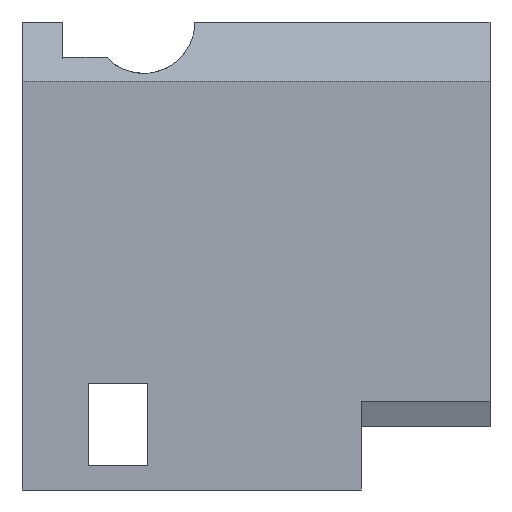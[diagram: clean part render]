
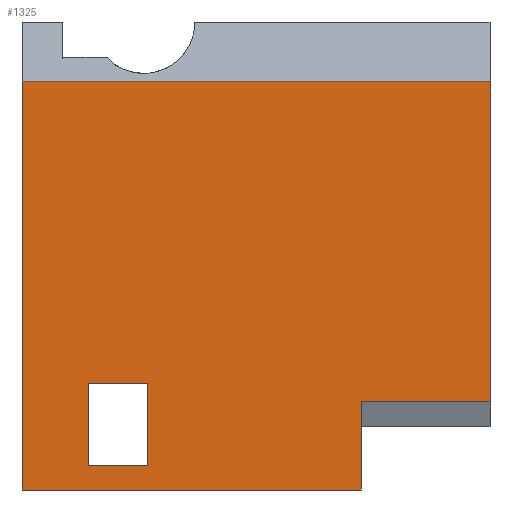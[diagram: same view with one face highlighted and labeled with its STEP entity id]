
A CAD part, front view. The second image highlights one B-rep face of the part: STEP entity #1325.
In plain terms, the highlighted planar face has unit normal (0, -1, 0).
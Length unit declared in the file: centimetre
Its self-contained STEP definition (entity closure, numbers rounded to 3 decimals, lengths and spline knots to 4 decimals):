
#2 = CARTESIAN_POINT ( 'NONE',  ( 141.1228, 0., 228.2216 ) ) ;
#21 = FACE_OUTER_BOUND ( 'NONE', #200, .T. ) ;
#23 = VECTOR ( 'NONE', #152, 100. ) ;
#36 = CARTESIAN_POINT ( 'NONE',  ( 141.1228, 0., 228.2216 ) ) ;
#53 = ORIENTED_EDGE ( 'NONE', *, *, #1179, .T. ) ;
#58 = LINE ( 'NONE', #1294, #607 ) ;
#89 = DIRECTION ( 'NONE',  ( 0., 0., 1. ) ) ;
#91 = VECTOR ( 'NONE', #1113, 100. ) ;
#104 = CARTESIAN_POINT ( 'NONE',  ( 724.5698, 0., 189.2938 ) ) ;
#117 = VECTOR ( 'NONE', #775, 100. ) ;
#126 = CARTESIAN_POINT ( 'NONE',  ( 1000., 0., 1000. ) ) ;
#152 = DIRECTION ( 'NONE',  ( 0., 0., -1. ) ) ;
#153 = VERTEX_POINT ( 'NONE', #1306 ) ;
#200 = EDGE_LOOP ( 'NONE', ( #805, #1352, #688, #1157, #402, #1291 ) ) ;
#257 = VERTEX_POINT ( 'NONE', #864 ) ;
#271 = VERTEX_POINT ( 'NONE', #104 ) ;
#278 = EDGE_CURVE ( 'NONE', #625, #948, #870, .T. ) ;
#283 = VERTEX_POINT ( 'NONE', #1405 ) ;
#289 = EDGE_CURVE ( 'NONE', #283, #153, #554, .T. ) ;
#303 = CARTESIAN_POINT ( 'NONE',  ( 1000., 0., 189.2938 ) ) ;
#378 = LINE ( 'NONE', #491, #1359 ) ;
#402 = ORIENTED_EDGE ( 'NONE', *, *, #498, .T. ) ;
#409 = VERTEX_POINT ( 'NONE', #481 ) ;
#436 = CARTESIAN_POINT ( 'NONE',  ( 0., 0., 873.509 ) ) ;
#446 = DIRECTION ( 'NONE',  ( 1., 0., 0. ) ) ;
#451 = DIRECTION ( 'NONE',  ( 1., 0., 0. ) ) ;
#459 = LINE ( 'NONE', #1097, #117 ) ;
#471 = CARTESIAN_POINT ( 'NONE',  ( 0., 0., 1000. ) ) ;
#481 = CARTESIAN_POINT ( 'NONE',  ( 268.4384, 0., 52.4948 ) ) ;
#487 = CARTESIAN_POINT ( 'NONE',  ( 0., 0., 1000. ) ) ;
#491 = CARTESIAN_POINT ( 'NONE',  ( 0., 0., 873.509 ) ) ;
#498 = EDGE_CURVE ( 'NONE', #1173, #283, #1259, .T. ) ;
#510 = VERTEX_POINT ( 'NONE', #710 ) ;
#511 = CARTESIAN_POINT ( 'NONE',  ( 141.1228, 0., 52.4948 ) ) ;
#552 = LINE ( 'NONE', #1423, #761 ) ;
#554 = LINE ( 'NONE', #777, #1298 ) ;
#560 = CARTESIAN_POINT ( 'NONE',  ( 268.4384, 0., 52.4948 ) ) ;
#598 = FACE_BOUND ( 'NONE', #1406, .T. ) ;
#607 = VECTOR ( 'NONE', #959, 100. ) ;
#625 = VERTEX_POINT ( 'NONE', #511 ) ;
#667 = VERTEX_POINT ( 'NONE', #303 ) ;
#688 = ORIENTED_EDGE ( 'NONE', *, *, #764, .F. ) ;
#710 = CARTESIAN_POINT ( 'NONE',  ( 268.4384, 0., 228.2216 ) ) ;
#759 = VECTOR ( 'NONE', #451, 100. ) ;
#761 = VECTOR ( 'NONE', #1103, 100. ) ;
#764 = EDGE_CURVE ( 'NONE', #257, #667, #1432, .T. ) ;
#775 = DIRECTION ( 'NONE',  ( -1., 0., 0. ) ) ;
#777 = CARTESIAN_POINT ( 'NONE',  ( 0., 0., 0. ) ) ;
#783 = EDGE_CURVE ( 'NONE', #510, #409, #1314, .T. ) ;
#792 = EDGE_CURVE ( 'NONE', #409, #625, #459, .T. ) ;
#797 = VECTOR ( 'NONE', #1010, 100. ) ;
#805 = ORIENTED_EDGE ( 'NONE', *, *, #1043, .F. ) ;
#810 = ORIENTED_EDGE ( 'NONE', *, *, #792, .T. ) ;
#864 = CARTESIAN_POINT ( 'NONE',  ( 1000., 0., 873.509 ) ) ;
#870 = LINE ( 'NONE', #1082, #1184 ) ;
#873 = LINE ( 'NONE', #2, #759 ) ;
#929 = DIRECTION ( 'NONE',  ( -1., 0., 0. ) ) ;
#948 = VERTEX_POINT ( 'NONE', #36 ) ;
#959 = DIRECTION ( 'NONE',  ( 0., 0., -1. ) ) ;
#1010 = DIRECTION ( 'NONE',  ( 0., 0., -1. ) ) ;
#1043 = EDGE_CURVE ( 'NONE', #271, #153, #58, .T. ) ;
#1082 = CARTESIAN_POINT ( 'NONE',  ( 141.1228, 0., 52.4948 ) ) ;
#1097 = CARTESIAN_POINT ( 'NONE',  ( 141.1228, 0., 52.4948 ) ) ;
#1103 = DIRECTION ( 'NONE',  ( 1., 0., 0. ) ) ;
#1113 = DIRECTION ( 'NONE',  ( 0., 0., -1. ) ) ;
#1125 = DIRECTION ( 'NONE',  ( 0., 1., 0. ) ) ;
#1149 = ORIENTED_EDGE ( 'NONE', *, *, #278, .T. ) ;
#1157 = ORIENTED_EDGE ( 'NONE', *, *, #1383, .T. ) ;
#1173 = VERTEX_POINT ( 'NONE', #436 ) ;
#1179 = EDGE_CURVE ( 'NONE', #948, #510, #873, .T. ) ;
#1184 = VECTOR ( 'NONE', #89, 100. ) ;
#1225 = AXIS2_PLACEMENT_3D ( 'NONE', #471, #1125, #1244 ) ;
#1244 = DIRECTION ( 'NONE',  ( 0., 0., 1. ) ) ;
#1257 = EDGE_CURVE ( 'NONE', #271, #667, #552, .T. ) ;
#1259 = LINE ( 'NONE', #487, #23 ) ;
#1291 = ORIENTED_EDGE ( 'NONE', *, *, #289, .T. ) ;
#1294 = CARTESIAN_POINT ( 'NONE',  ( 724.5698, 0., 189.2938 ) ) ;
#1298 = VECTOR ( 'NONE', #446, 100. ) ;
#1306 = CARTESIAN_POINT ( 'NONE',  ( 724.5698, 0., 0. ) ) ;
#1314 = LINE ( 'NONE', #560, #797 ) ;
#1325 = ADVANCED_FACE ( 'NONE', ( #598, #21 ), #1348, .F. ) ;
#1339 = ORIENTED_EDGE ( 'NONE', *, *, #783, .T. ) ;
#1348 = PLANE ( 'NONE',  #1225 ) ;
#1352 = ORIENTED_EDGE ( 'NONE', *, *, #1257, .T. ) ;
#1359 = VECTOR ( 'NONE', #929, 100. ) ;
#1383 = EDGE_CURVE ( 'NONE', #257, #1173, #378, .T. ) ;
#1405 = CARTESIAN_POINT ( 'NONE',  ( 0., 0., 0. ) ) ;
#1406 = EDGE_LOOP ( 'NONE', ( #810, #1149, #53, #1339 ) ) ;
#1423 = CARTESIAN_POINT ( 'NONE',  ( 724.5698, 0., 189.2938 ) ) ;
#1432 = LINE ( 'NONE', #126, #91 ) ;
